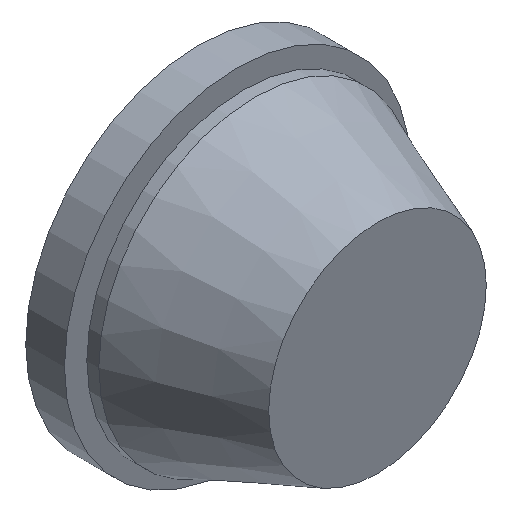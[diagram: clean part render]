
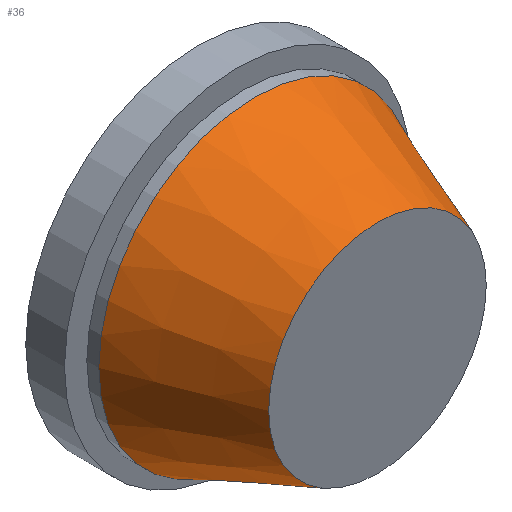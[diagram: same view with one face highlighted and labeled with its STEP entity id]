
A CAD part, isometric view. The second image highlights one B-rep face of the part: STEP entity #36.
In plain terms, the highlighted conical face has half-angle 21.32 degrees and reference radius 26.25 mm.
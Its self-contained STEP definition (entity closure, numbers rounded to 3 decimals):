
#36 = ADVANCED_FACE( '', ( #72, #73 ), #74, .T. );
#72 = FACE_BOUND( '', #109, .T. );
#73 = FACE_OUTER_BOUND( '', #110, .T. );
#74 = CONICAL_SURFACE( '', #111, 26.25, 0.372 );
#109 = EDGE_LOOP( '', ( #144 ) );
#110 = EDGE_LOOP( '', ( #145 ) );
#111 = AXIS2_PLACEMENT_3D( '', #146, #147, #148 );
#144 = ORIENTED_EDGE( '', *, *, #184, .F. );
#145 = ORIENTED_EDGE( '', *, *, #185, .T. );
#146 = CARTESIAN_POINT( '', ( 0., -3.002, 0. ) );
#147 = DIRECTION( '', ( 0., 1., 0. ) );
#148 = DIRECTION( '', ( 0., 0., 1. ) );
#184 = EDGE_CURVE( '', #202, #202, #203, .T. );
#185 = EDGE_CURVE( '', #204, #204, #205, .T. );
#202 = VERTEX_POINT( '', #224 );
#203 = CIRCLE( '', #225, 18.25 );
#204 = VERTEX_POINT( '', #226 );
#205 = CIRCLE( '', #227, 26.25 );
#224 = CARTESIAN_POINT( '', ( 0., -23.5, -18.25 ) );
#225 = AXIS2_PLACEMENT_3D( '', #246, #247, #248 );
#226 = CARTESIAN_POINT( '', ( 0., -3.002, -26.25 ) );
#227 = AXIS2_PLACEMENT_3D( '', #249, #250, #251 );
#246 = CARTESIAN_POINT( '', ( 0., -23.5, 0. ) );
#247 = DIRECTION( '', ( 0., -1., 0. ) );
#248 = DIRECTION( '', ( 0., 0., -1. ) );
#249 = CARTESIAN_POINT( '', ( 0., -3.002, 0. ) );
#250 = DIRECTION( '', ( 0., -1., 0. ) );
#251 = DIRECTION( '', ( 0., 0., -1. ) );
